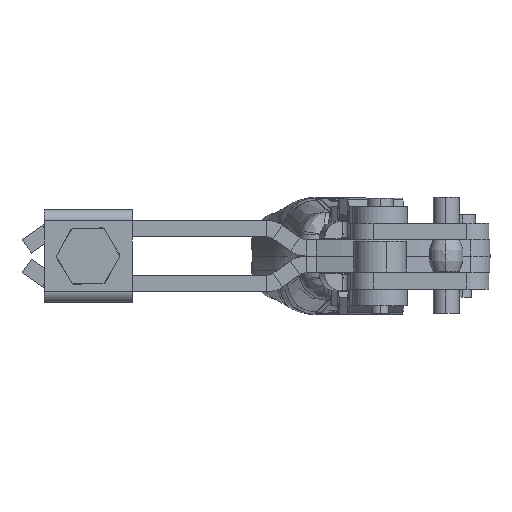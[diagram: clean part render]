
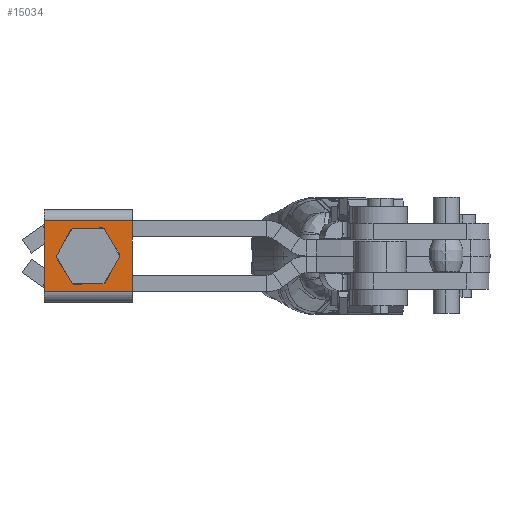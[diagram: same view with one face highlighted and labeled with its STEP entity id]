
A CAD part, front view. The second image highlights one B-rep face of the part: STEP entity #15034.
In plain terms, the highlighted planar face has unit normal (0, -1, 0) as drawn and (0, 1, 0) by its records, which use the part's own axes.
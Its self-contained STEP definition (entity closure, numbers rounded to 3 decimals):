
#450 = DIRECTION ( 'NONE',  ( 1., 0., 0. ) ) ;
#571 = DIRECTION ( 'NONE',  ( 0., 0., 1. ) ) ;
#718 = FACE_BOUND ( 'NONE', #20602, .T. ) ;
#798 = DIRECTION ( 'NONE',  ( 0., 1., 0. ) ) ;
#1555 = CARTESIAN_POINT ( 'NONE',  ( 6.4, 5., -8. ) ) ;
#2797 = LINE ( 'NONE', #20258, #24451 ) ;
#4206 = DIRECTION ( 'NONE',  ( 0., 1., 0. ) ) ;
#4389 = VERTEX_POINT ( 'NONE', #19750 ) ;
#5067 = CARTESIAN_POINT ( 'NONE',  ( 0., 5., -3.25 ) ) ;
#6035 = EDGE_CURVE ( 'NONE', #13176, #34139, #2797, .T. ) ;
#6593 = EDGE_CURVE ( 'NONE', #32351, #34139, #23123, .T. ) ;
#6782 = ORIENTED_EDGE ( 'NONE', *, *, #17872, .F. ) ;
#7503 = CIRCLE ( 'NONE', #9392, 3.25 ) ;
#7685 = EDGE_LOOP ( 'NONE', ( #28585, #18083, #30621, #27021 ) ) ;
#7732 = VECTOR ( 'NONE', #34306, 1000. ) ;
#8837 = EDGE_CURVE ( 'NONE', #4389, #32351, #21258, .T. ) ;
#9392 = AXIS2_PLACEMENT_3D ( 'NONE', #17723, #798, #20597 ) ;
#9921 = EDGE_CURVE ( 'NONE', #17129, #26708, #7503, .T. ) ;
#11646 = CIRCLE ( 'NONE', #24213, 3.25 ) ;
#11833 = CARTESIAN_POINT ( 'NONE',  ( -8.5, 5., 8. ) ) ;
#11952 = DIRECTION ( 'NONE',  ( 1., 0., 0. ) ) ;
#13176 = VERTEX_POINT ( 'NONE', #31877 ) ;
#13829 = VECTOR ( 'NONE', #34779, 1000. ) ;
#14659 = PLANE ( 'NONE',  #31839 ) ;
#14974 = ORIENTED_EDGE ( 'NONE', *, *, #9921, .F. ) ;
#15034 = ADVANCED_FACE ( 'NONE', ( #718, #30690 ), #14659, .T. ) ;
#15105 = CARTESIAN_POINT ( 'NONE',  ( 6.4, 5., 8. ) ) ;
#17054 = EDGE_CURVE ( 'NONE', #4389, #13176, #20998, .T. ) ;
#17129 = VERTEX_POINT ( 'NONE', #17842 ) ;
#17499 = DIRECTION ( 'NONE',  ( 0., 1., 0. ) ) ;
#17723 = CARTESIAN_POINT ( 'NONE',  ( 0., 5., 0. ) ) ;
#17842 = CARTESIAN_POINT ( 'NONE',  ( 0., 5., 3.25 ) ) ;
#17872 = EDGE_CURVE ( 'NONE', #26708, #17129, #11646, .T. ) ;
#18083 = ORIENTED_EDGE ( 'NONE', *, *, #17054, .F. ) ;
#18729 = CARTESIAN_POINT ( 'NONE',  ( 6.4, 5., 8. ) ) ;
#19750 = CARTESIAN_POINT ( 'NONE',  ( -6.4, 5., 8. ) ) ;
#20258 = CARTESIAN_POINT ( 'NONE',  ( -8.5, 5., -8. ) ) ;
#20489 = CARTESIAN_POINT ( 'NONE',  ( -8.5, 5., 8. ) ) ;
#20597 = DIRECTION ( 'NONE',  ( 0., 0., 1. ) ) ;
#20602 = EDGE_LOOP ( 'NONE', ( #14974, #6782 ) ) ;
#20998 = LINE ( 'NONE', #23065, #7732 ) ;
#21138 = CARTESIAN_POINT ( 'NONE',  ( 0., 5., 0. ) ) ;
#21258 = LINE ( 'NONE', #20489, #22159 ) ;
#22159 = VECTOR ( 'NONE', #11952, 1000. ) ;
#23065 = CARTESIAN_POINT ( 'NONE',  ( -6.4, 5., 8. ) ) ;
#23123 = LINE ( 'NONE', #15105, #13829 ) ;
#23936 = DIRECTION ( 'NONE',  ( 0., 0., 1. ) ) ;
#24213 = AXIS2_PLACEMENT_3D ( 'NONE', #21138, #4206, #23936 ) ;
#24451 = VECTOR ( 'NONE', #450, 1000. ) ;
#26708 = VERTEX_POINT ( 'NONE', #5067 ) ;
#27021 = ORIENTED_EDGE ( 'NONE', *, *, #6593, .T. ) ;
#28585 = ORIENTED_EDGE ( 'NONE', *, *, #6035, .F. ) ;
#30621 = ORIENTED_EDGE ( 'NONE', *, *, #8837, .T. ) ;
#30690 = FACE_OUTER_BOUND ( 'NONE', #7685, .T. ) ;
#31839 = AXIS2_PLACEMENT_3D ( 'NONE', #11833, #17499, #571 ) ;
#31877 = CARTESIAN_POINT ( 'NONE',  ( -6.4, 5., -8. ) ) ;
#32351 = VERTEX_POINT ( 'NONE', #18729 ) ;
#34139 = VERTEX_POINT ( 'NONE', #1555 ) ;
#34306 = DIRECTION ( 'NONE',  ( 0., 0., -1. ) ) ;
#34779 = DIRECTION ( 'NONE',  ( 0., 0., -1. ) ) ;
